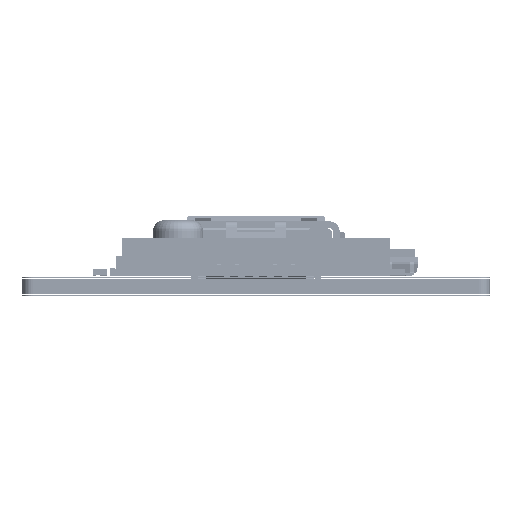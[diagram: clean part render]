
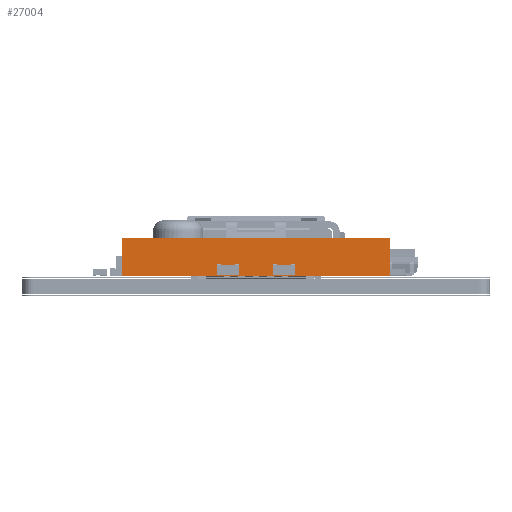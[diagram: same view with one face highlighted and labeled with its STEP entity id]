
A CAD part, front view. The second image highlights one B-rep face of the part: STEP entity #27004.
In plain terms, the highlighted planar face has unit normal (0, -1, 0).
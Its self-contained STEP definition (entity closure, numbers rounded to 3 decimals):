
#27004=ADVANCED_FACE('',(#54044),#54045,.F.);
#54044=FACE_OUTER_BOUND('',#92495,.T.);
#54045=PLANE('',#92496);
#92495=EDGE_LOOP('',(#135505,#135506,#135507,#135508));
#92496=AXIS2_PLACEMENT_3D('',#135509,#135510,#135511);
#135505=ORIENTED_EDGE('',*,*,#162525,.T.);
#135506=ORIENTED_EDGE('',*,*,#162526,.F.);
#135507=ORIENTED_EDGE('',*,*,#162527,.F.);
#135508=ORIENTED_EDGE('',*,*,#162528,.T.);
#135509=CARTESIAN_POINT('',(16.5,8.2,0.0));
#135510=DIRECTION('',(0.,1.0,0.0));
#135511=DIRECTION('',(-1.0,0.,0.0));
#162525=EDGE_CURVE('',#207588,#207589,#207590,.T.);
#162526=EDGE_CURVE('',#207591,#207589,#207592,.T.);
#162527=EDGE_CURVE('',#207593,#207591,#207594,.T.);
#162528=EDGE_CURVE('',#207593,#207588,#207595,.T.);
#207588=VERTEX_POINT('',#242641);
#207589=VERTEX_POINT('',#242642);
#207590=LINE('',#242643,#242644);
#207591=VERTEX_POINT('',#242645);
#207592=LINE('',#242646,#242647);
#207593=VERTEX_POINT('',#242648);
#207594=LINE('',#242649,#242650);
#207595=LINE('',#242651,#242652);
#242641=CARTESIAN_POINT('',(16.5,8.2,1.7));
#242642=CARTESIAN_POINT('',(4.5,8.2,1.7));
#242643=CARTESIAN_POINT('',(16.5,8.2,1.7));
#242644=VECTOR('',#264496,1.0);
#242645=CARTESIAN_POINT('',(4.5,8.2,0.0));
#242646=CARTESIAN_POINT('',(4.5,8.2,0.0));
#242647=VECTOR('',#264497,1.0);
#242648=CARTESIAN_POINT('',(16.5,8.2,0.0));
#242649=CARTESIAN_POINT('',(16.5,8.2,0.0));
#242650=VECTOR('',#264498,1.0);
#242651=CARTESIAN_POINT('',(16.5,8.2,0.0));
#242652=VECTOR('',#264499,1.0);
#264496=DIRECTION('',(-1.0,0.,0.0));
#264497=DIRECTION('',(0.0,0.0,1.0));
#264498=DIRECTION('',(-1.0,0.,0.0));
#264499=DIRECTION('',(0.0,0.0,1.0));
